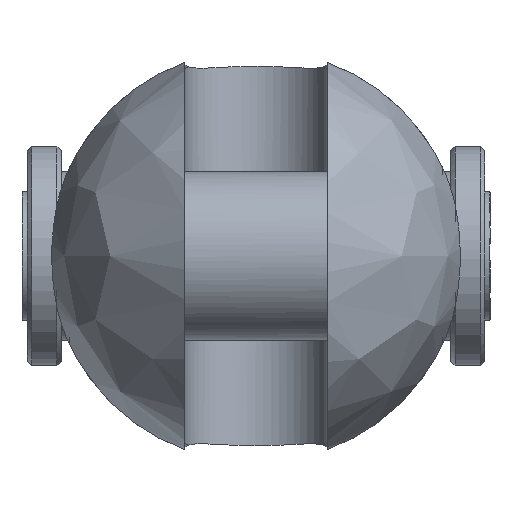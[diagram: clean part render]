
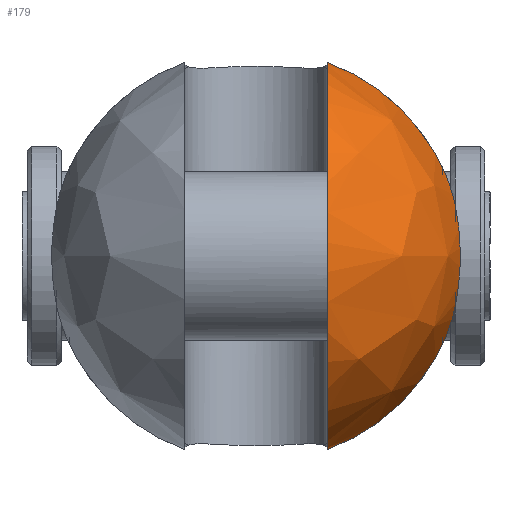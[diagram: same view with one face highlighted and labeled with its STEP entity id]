
A CAD part, left-side view. The second image highlights one B-rep face of the part: STEP entity #179.
In plain terms, the highlighted free-form (B-spline) face has degree [2, 2] with [9, 5] control points.
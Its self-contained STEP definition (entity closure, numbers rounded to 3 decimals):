
#179=ADVANCED_FACE('',(#320),#2412,.T.);
#320=FACE_OUTER_BOUND('',#481,.T.);
#481=EDGE_LOOP('',(#1192,#1193,#1194,#1195));
#1192=ORIENTED_EDGE('',*,*,#1576,.T.);
#1193=ORIENTED_EDGE('',*,*,#1597,.F.);
#1194=ORIENTED_EDGE('',*,*,#1606,.T.);
#1195=ORIENTED_EDGE('',*,*,#1592,.F.);
#1576=EDGE_CURVE('',#2244,#2243,#1979,.T.);
#1592=EDGE_CURVE('',#2244,#2256,#1989,.T.);
#1597=EDGE_CURVE('',#2263,#2243,#1990,.T.);
#1606=EDGE_CURVE('',#2263,#2256,#1780,.T.);
#1780=B_SPLINE_CURVE_WITH_KNOTS('',3,(#5994,#5995,#5996,#5997,#5998,#5999,
#6000,#6001,#6002,#6003,#6004,#6005,#6006,#6007),.UNSPECIFIED.,.F.,.F.,
(4,2,2,2,2,2,4),(0.,3.032,6.669,10.306,
13.942,17.579,20.611),.UNSPECIFIED.);
#1979=(
BOUNDED_CURVE()
B_SPLINE_CURVE(2,(#5878,#5879,#5880,#5881,#5882),.UNSPECIFIED.,.F.,.F.)
B_SPLINE_CURVE_WITH_KNOTS((3,2,3),(-72.188,-36.094,
0.),.UNSPECIFIED.)
CURVE()
GEOMETRIC_REPRESENTATION_ITEM()
RATIONAL_B_SPLINE_CURVE((1.,0.707,1.,0.707,1.))
REPRESENTATION_ITEM('')
);
#1989=(
BOUNDED_CURVE()
B_SPLINE_CURVE(2,(#5956,#5957,#5958),.UNSPECIFIED.,.F.,.F.)
B_SPLINE_CURVE_WITH_KNOTS((3,3),(0.,20.308),.UNSPECIFIED.)
CURVE()
GEOMETRIC_REPRESENTATION_ITEM()
RATIONAL_B_SPLINE_CURVE((1.,0.915,1.))
REPRESENTATION_ITEM('')
);
#1990=(
BOUNDED_CURVE()
B_SPLINE_CURVE(2,(#5967,#5968,#5969),.UNSPECIFIED.,.F.,.F.)
B_SPLINE_CURVE_WITH_KNOTS((3,3),(0.,20.308),.UNSPECIFIED.)
CURVE()
GEOMETRIC_REPRESENTATION_ITEM()
RATIONAL_B_SPLINE_CURVE((1.,0.915,1.))
REPRESENTATION_ITEM('')
);
#2243=VERTEX_POINT('',#5746);
#2244=VERTEX_POINT('',#5747);
#2256=VERTEX_POINT('',#5759);
#2263=VERTEX_POINT('',#5766);
#2412=(
BOUNDED_SURFACE()
B_SPLINE_SURFACE(2,2,((#5460,#5461,#5462,#5463,#5464),(#5465,#5466,#5467,
#5468,#5469),(#5470,#5471,#5472,#5473,#5474),(#5475,#5476,#5477,#5478,#5479),
(#5480,#5481,#5482,#5483,#5484),(#5485,#5486,#5487,#5488,#5489),(#5490,
#5491,#5492,#5493,#5494),(#5495,#5496,#5497,#5498,#5499),(#5500,#5501,#5502,
#5503,#5504)),.UNSPECIFIED.,.T.,.F.,.F.)
B_SPLINE_SURFACE_WITH_KNOTS((3,2,2,2,3),(3,2,3),(0.,38.485,76.969,
115.454,153.938),(0.,38.485,76.969),
 .UNSPECIFIED.)
GEOMETRIC_REPRESENTATION_ITEM()
RATIONAL_B_SPLINE_SURFACE(((1.,0.707,1.,0.707,1.),
(0.707,0.5,0.707,0.5,0.707),(1.,0.707,
1.,0.707,1.),(0.707,0.5,0.707,0.5,0.707),
(1.,0.707,1.,0.707,1.),(0.707,0.5,0.707,
0.5,0.707),(1.,0.707,1.,0.707,1.),(0.707,
0.5,0.707,0.5,0.707),(1.,0.707,1.,0.707,
1.)))
REPRESENTATION_ITEM('')
SURFACE()
);
#5460=CARTESIAN_POINT('',(-35.,0.,0.));
#5461=CARTESIAN_POINT('',(-35.,24.5,0.));
#5462=CARTESIAN_POINT('',(-10.5,24.5,0.));
#5463=CARTESIAN_POINT('',(14.,24.5,0.));
#5464=CARTESIAN_POINT('',(14.,0.,0.));
#5465=CARTESIAN_POINT('',(-35.,0.,0.));
#5466=CARTESIAN_POINT('',(-35.,24.5,24.5));
#5467=CARTESIAN_POINT('',(-10.5,24.5,24.5));
#5468=CARTESIAN_POINT('',(14.,24.5,24.5));
#5469=CARTESIAN_POINT('',(14.,0.,0.));
#5470=CARTESIAN_POINT('',(-35.,0.,0.));
#5471=CARTESIAN_POINT('',(-35.,0.,24.5));
#5472=CARTESIAN_POINT('',(-10.5,0.,24.5));
#5473=CARTESIAN_POINT('',(14.,0.,24.5));
#5474=CARTESIAN_POINT('',(14.,0.,0.));
#5475=CARTESIAN_POINT('',(-35.,0.,0.));
#5476=CARTESIAN_POINT('',(-35.,-24.5,24.5));
#5477=CARTESIAN_POINT('',(-10.5,-24.5,24.5));
#5478=CARTESIAN_POINT('',(14.,-24.5,24.5));
#5479=CARTESIAN_POINT('',(14.,0.,0.));
#5480=CARTESIAN_POINT('',(-35.,0.,0.));
#5481=CARTESIAN_POINT('',(-35.,-24.5,0.));
#5482=CARTESIAN_POINT('',(-10.5,-24.5,0.));
#5483=CARTESIAN_POINT('',(14.,-24.5,0.));
#5484=CARTESIAN_POINT('',(14.,0.,0.));
#5485=CARTESIAN_POINT('',(-35.,0.,0.));
#5486=CARTESIAN_POINT('',(-35.,-24.5,-24.5));
#5487=CARTESIAN_POINT('',(-10.5,-24.5,-24.5));
#5488=CARTESIAN_POINT('',(14.,-24.5,-24.5));
#5489=CARTESIAN_POINT('',(14.,0.,0.));
#5490=CARTESIAN_POINT('',(-35.,0.,0.));
#5491=CARTESIAN_POINT('',(-35.,0.,-24.5));
#5492=CARTESIAN_POINT('',(-10.5,0.,-24.5));
#5493=CARTESIAN_POINT('',(14.,0.,-24.5));
#5494=CARTESIAN_POINT('',(14.,0.,0.));
#5495=CARTESIAN_POINT('',(-35.,0.,0.));
#5496=CARTESIAN_POINT('',(-35.,24.5,-24.5));
#5497=CARTESIAN_POINT('',(-10.5,24.5,-24.5));
#5498=CARTESIAN_POINT('',(14.,24.5,-24.5));
#5499=CARTESIAN_POINT('',(14.,0.,0.));
#5500=CARTESIAN_POINT('',(-35.,0.,0.));
#5501=CARTESIAN_POINT('',(-35.,24.5,0.));
#5502=CARTESIAN_POINT('',(-10.5,24.5,0.));
#5503=CARTESIAN_POINT('',(14.,24.5,0.));
#5504=CARTESIAN_POINT('',(14.,0.,0.));
#5746=CARTESIAN_POINT('',(-10.5,-8.5,-22.978));
#5747=CARTESIAN_POINT('',(-10.5,-8.5,22.978));
#5759=CARTESIAN_POINT('',(-10.5,-22.683,9.26));
#5766=CARTESIAN_POINT('',(-10.5,-22.683,-9.26));
#5878=CARTESIAN_POINT('',(-10.5,-8.5,22.978));
#5879=CARTESIAN_POINT('',(-33.478,-8.5,22.978));
#5880=CARTESIAN_POINT('',(-33.478,-8.5,0.));
#5881=CARTESIAN_POINT('',(-33.478,-8.5,-22.978));
#5882=CARTESIAN_POINT('',(-10.5,-8.5,-22.978));
#5956=CARTESIAN_POINT('',(-10.5,-8.5,22.978));
#5957=CARTESIAN_POINT('',(-10.5,-18.609,19.239));
#5958=CARTESIAN_POINT('',(-10.5,-22.683,9.26));
#5967=CARTESIAN_POINT('',(-10.5,-22.683,-9.26));
#5968=CARTESIAN_POINT('',(-10.5,-18.609,-19.239));
#5969=CARTESIAN_POINT('',(-10.5,-8.5,-22.978));
#5994=CARTESIAN_POINT('',(-10.5,-22.683,-9.26));
#5995=CARTESIAN_POINT('',(-11.153,-22.985,-8.52));
#5996=CARTESIAN_POINT('',(-11.723,-23.243,-7.71));
#5997=CARTESIAN_POINT('',(-12.736,-23.697,-5.92));
#5998=CARTESIAN_POINT('',(-13.217,-23.908,-4.778));
#5999=CARTESIAN_POINT('',(-13.849,-24.184,-2.393));
#6000=CARTESIAN_POINT('',(-14.,-24.249,-1.149));
#6001=CARTESIAN_POINT('',(-14.,-24.249,1.149));
#6002=CARTESIAN_POINT('',(-13.849,-24.184,2.393));
#6003=CARTESIAN_POINT('',(-13.217,-23.908,4.778));
#6004=CARTESIAN_POINT('',(-12.736,-23.697,5.92));
#6005=CARTESIAN_POINT('',(-11.723,-23.243,7.71));
#6006=CARTESIAN_POINT('',(-11.153,-22.985,8.52));
#6007=CARTESIAN_POINT('',(-10.5,-22.683,9.26));
